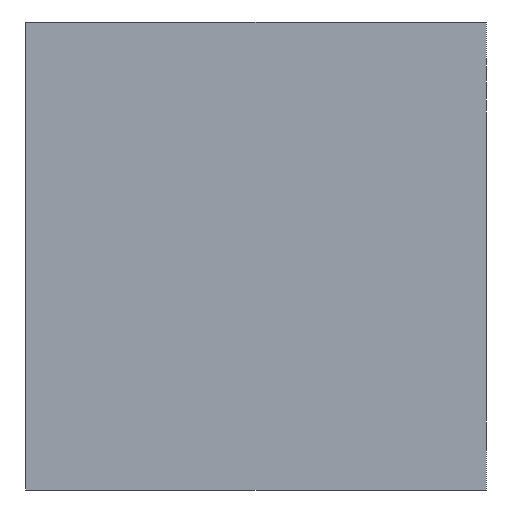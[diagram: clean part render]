
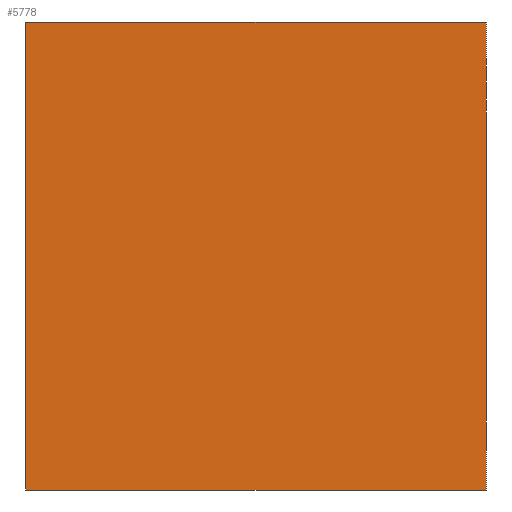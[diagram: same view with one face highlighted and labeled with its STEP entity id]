
A CAD part, left-side view. The second image highlights one B-rep face of the part: STEP entity #5778.
In plain terms, the highlighted planar face has unit normal (-1, 0, 0).
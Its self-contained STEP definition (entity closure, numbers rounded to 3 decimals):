
#24 = CARTESIAN_POINT ( 'NONE',  ( 0., -14.75, 15. ) ) ;
#54 = CARTESIAN_POINT ( 'NONE',  ( 0., 14.75, -15. ) ) ;
#69 = VERTEX_POINT ( 'NONE', #54 ) ;
#121 = LINE ( 'NONE', #24, #5642 ) ;
#366 = CARTESIAN_POINT ( 'NONE',  ( 0., 14.75, 15. ) ) ;
#600 = DIRECTION ( 'NONE',  ( 0., -1., 0. ) ) ;
#603 = PLANE ( 'NONE',  #3257 ) ;
#793 = VERTEX_POINT ( 'NONE', #8971 ) ;
#1148 = DIRECTION ( 'NONE',  ( 0., 0., -1. ) ) ;
#1412 = EDGE_CURVE ( 'NONE', #3445, #793, #4710, .T. ) ;
#2285 = EDGE_LOOP ( 'NONE', ( #11478, #11575, #9162, #9271 ) ) ;
#2413 = CARTESIAN_POINT ( 'NONE',  ( 0., -14.75, -15. ) ) ;
#3197 = DIRECTION ( 'NONE',  ( 0., 1., 0. ) ) ;
#3257 = AXIS2_PLACEMENT_3D ( 'NONE', #12789, #6153, #13883 ) ;
#3445 = VERTEX_POINT ( 'NONE', #366 ) ;
#3647 = VERTEX_POINT ( 'NONE', #2413 ) ;
#3884 = LINE ( 'NONE', #4204, #12759 ) ;
#4204 = CARTESIAN_POINT ( 'NONE',  ( 0., 14.75, 15. ) ) ;
#4710 = LINE ( 'NONE', #13511, #7368 ) ;
#5267 = FACE_OUTER_BOUND ( 'NONE', #2285, .T. ) ;
#5336 = DIRECTION ( 'NONE',  ( 0., 0., 1. ) ) ;
#5482 = EDGE_CURVE ( 'NONE', #69, #3445, #3884, .T. ) ;
#5545 = VECTOR ( 'NONE', #3197, 1000. ) ;
#5642 = VECTOR ( 'NONE', #1148, 1000. ) ;
#5778 = ADVANCED_FACE ( 'NONE', ( #5267 ), #603, .T. ) ;
#6153 = DIRECTION ( 'NONE',  ( -1., 0., 0. ) ) ;
#7368 = VECTOR ( 'NONE', #600, 1000. ) ;
#8713 = EDGE_CURVE ( 'NONE', #793, #3647, #121, .T. ) ;
#8971 = CARTESIAN_POINT ( 'NONE',  ( 0., -14.75, 15. ) ) ;
#9162 = ORIENTED_EDGE ( 'NONE', *, *, #1412, .F. ) ;
#9271 = ORIENTED_EDGE ( 'NONE', *, *, #5482, .F. ) ;
#9891 = EDGE_CURVE ( 'NONE', #3647, #69, #11465, .T. ) ;
#11465 = LINE ( 'NONE', #13184, #5545 ) ;
#11478 = ORIENTED_EDGE ( 'NONE', *, *, #9891, .F. ) ;
#11575 = ORIENTED_EDGE ( 'NONE', *, *, #8713, .F. ) ;
#12759 = VECTOR ( 'NONE', #5336, 1000. ) ;
#12789 = CARTESIAN_POINT ( 'NONE',  ( 0., 14.75, -15. ) ) ;
#13184 = CARTESIAN_POINT ( 'NONE',  ( 0., -14.75, -15. ) ) ;
#13511 = CARTESIAN_POINT ( 'NONE',  ( 0., -14.75, 15. ) ) ;
#13883 = DIRECTION ( 'NONE',  ( 0., 0., 1. ) ) ;
